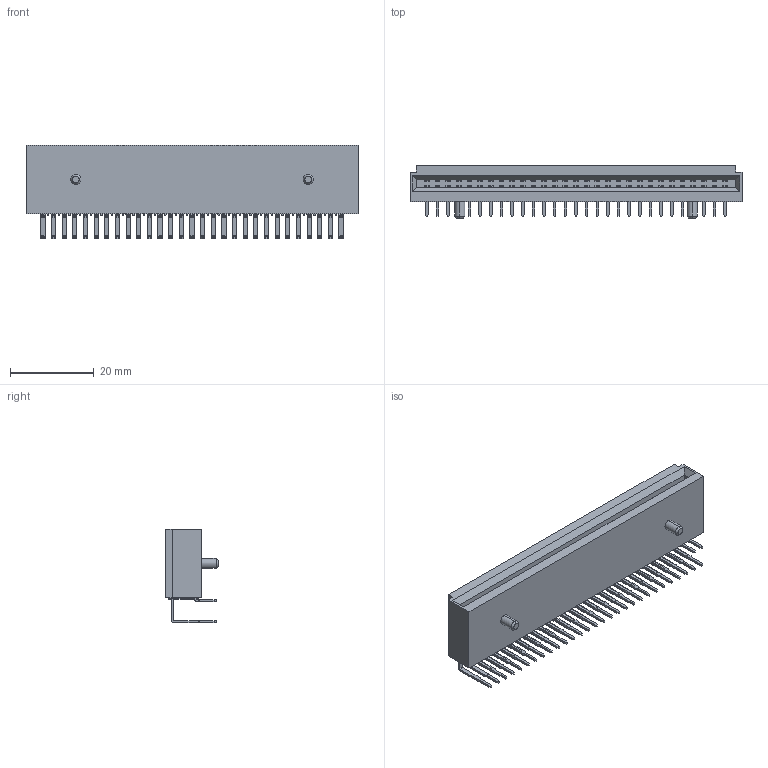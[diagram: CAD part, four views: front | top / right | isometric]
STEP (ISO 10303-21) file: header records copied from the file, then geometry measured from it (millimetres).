
FILE_DESCRIPTION (( 'STEP AP214' ), '1' );
FILE_NAME ('9393-J4P58P11AC05DAｱﾇ.STEP', '2017-03-21T01:58:02', ( 'admin' ), ( '' ), 'SwSTEP 2.0', 'SolidWorks 2011', '' );
FILE_SCHEMA (( 'AUTOMOTIVE_DESIGN' ));
Length unit declared in the file: millimetre
Products named in the file (4): 9393J-2X29; 9393J-PD04_Default; 9393J-PD05_Default; 9393-J4P58P11AC05DAｱﾇ
Assembly tree (59 placements, depth 2):
  9393-J4P58P11AC05DAｱﾇ
    9393J-PD05_Default  x29
    9393J-PD04_Default  x29
    9393J-2X29
Bounding box: 79.2 x 12.5 x 22.38 mm (x, y, z)
Volume: 8857.4 mm3; surface area: 11407.9 mm2
Topology: 117 solids, 117 shells, 2664 faces, 7046 edges, 4656 vertices
Faces by surface type: plane 1729, cylinder 931, cone 4
Entity records: 21758 total; most frequent: CARTESIAN_POINT 3724, ORIENTED_EDGE 3564, DIRECTION 3468, EDGE_CURVE 1782, LINE 1484, VECTOR 1484, VERTEX_POINT 1184, AXIS2_PLACEMENT_3D 992
